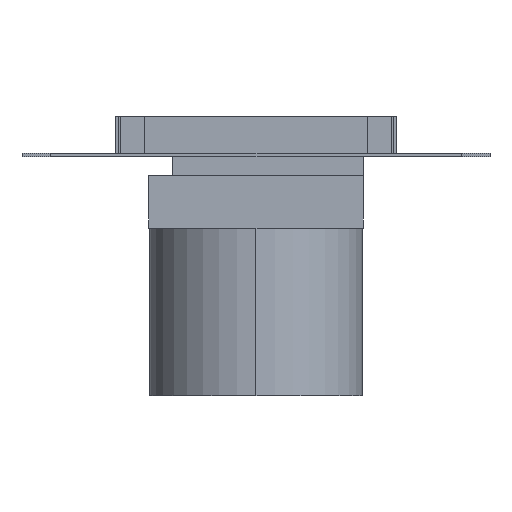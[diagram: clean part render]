
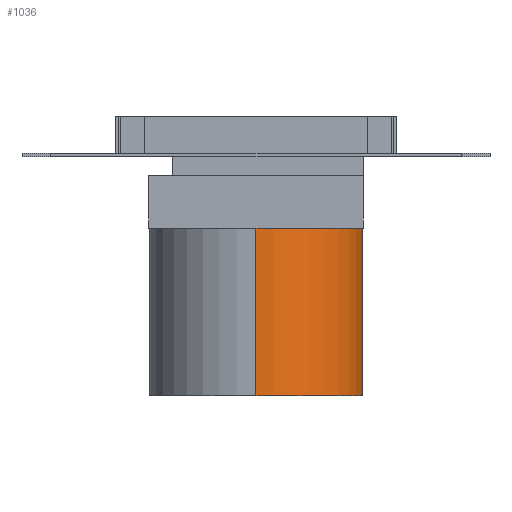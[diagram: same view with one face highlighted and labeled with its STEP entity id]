
A CAD part, left-side view. The second image highlights one B-rep face of the part: STEP entity #1036.
In plain terms, the highlighted cylindrical face has radius 57.35 mm (diameter 114.7 mm), a partial arc.
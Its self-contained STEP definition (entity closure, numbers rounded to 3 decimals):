
#17=CIRCLE('',#1130,57.35);
#18=CIRCLE('',#1131,57.35);
#21=CYLINDRICAL_SURFACE('',#1129,57.35);
#48=FACE_OUTER_BOUND('',#113,.T.);
#113=EDGE_LOOP('',(#714,#715,#716,#717));
#190=LINE('',#1506,#327);
#191=LINE('',#1509,#328);
#327=VECTOR('',#1226,304.8);
#328=VECTOR('',#1229,304.8);
#459=VERTEX_POINT('',#1502);
#460=VERTEX_POINT('',#1503);
#461=VERTEX_POINT('',#1505);
#462=VERTEX_POINT('',#1507);
#558=EDGE_CURVE('',#459,#460,#17,.T.);
#559=EDGE_CURVE('',#461,#459,#190,.T.);
#560=EDGE_CURVE('',#462,#461,#18,.T.);
#561=EDGE_CURVE('',#460,#462,#191,.T.);
#714=ORIENTED_EDGE('',*,*,#558,.F.);
#715=ORIENTED_EDGE('',*,*,#559,.F.);
#716=ORIENTED_EDGE('',*,*,#560,.F.);
#717=ORIENTED_EDGE('',*,*,#561,.F.);
#1036=ADVANCED_FACE('',(#48),#21,.T.);
#1129=AXIS2_PLACEMENT_3D('',#1501,#1222,#1223);
#1130=AXIS2_PLACEMENT_3D('',#1504,#1224,#1225);
#1131=AXIS2_PLACEMENT_3D('',#1508,#1227,#1228);
#1222=DIRECTION('center_axis',(0.,0.,1.));
#1223=DIRECTION('ref_axis',(-1.,0.,0.));
#1224=DIRECTION('center_axis',(0.,0.,1.));
#1225=DIRECTION('ref_axis',(-1.,0.,0.));
#1226=DIRECTION('',(0.,0.,1.));
#1227=DIRECTION('center_axis',(0.,0.,-1.));
#1228=DIRECTION('ref_axis',(-1.,0.,0.));
#1229=DIRECTION('',(0.,0.,-1.));
#1501=CARTESIAN_POINT('Origin',(0.,0.,
-150.));
#1502=CARTESIAN_POINT('',(-57.35,0.,-32.));
#1503=CARTESIAN_POINT('',(57.35,0.,-32.));
#1504=CARTESIAN_POINT('Origin',(0.,0.,
-32.));
#1505=CARTESIAN_POINT('',(-57.35,0.,-150.));
#1506=CARTESIAN_POINT('',(-57.35,0.,-150.));
#1507=CARTESIAN_POINT('',(57.35,0.,-150.));
#1508=CARTESIAN_POINT('Origin',(0.,0.,
-150.));
#1509=CARTESIAN_POINT('',(57.35,0.,-32.));
